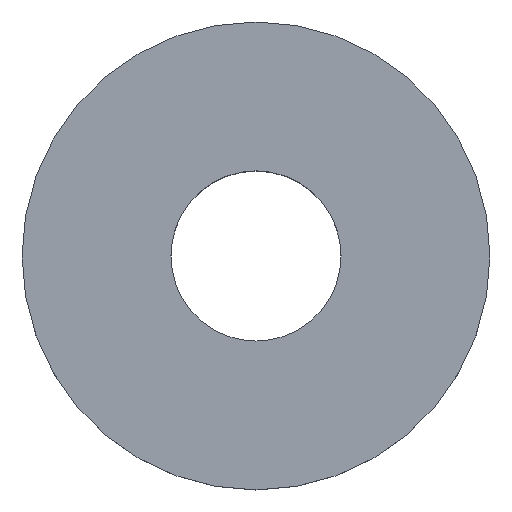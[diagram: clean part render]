
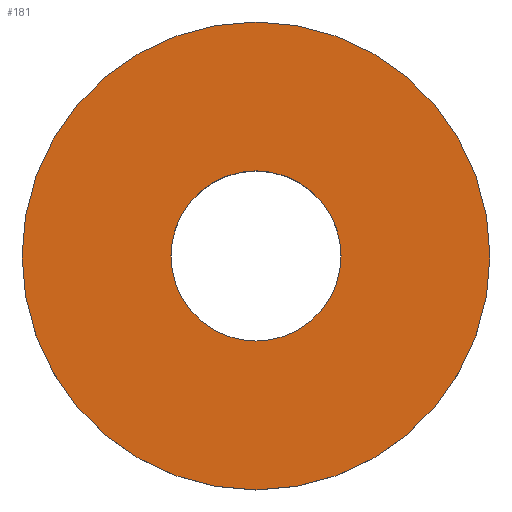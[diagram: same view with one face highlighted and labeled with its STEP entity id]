
A CAD part, top view. The second image highlights one B-rep face of the part: STEP entity #181.
In plain terms, the highlighted planar face has unit normal (0, 0, 1).
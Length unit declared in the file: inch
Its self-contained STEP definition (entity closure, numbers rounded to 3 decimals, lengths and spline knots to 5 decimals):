
#147=CARTESIAN_POINT('',(1.375,0.0,0.));
#148=VERTEX_POINT('',#147);
#149=CARTESIAN_POINT('',(0.0,0.0,0.));
#150=DIRECTION('',(0.0,0.0,1.0));
#151=DIRECTION('',(1.0,0.0,0.0));
#152=AXIS2_PLACEMENT_3D('',#149,#150,#151);
#153=CIRCLE('',#152,1.375);
#154=EDGE_CURVE('',#148,#148,#153,.T.);
#162=CARTESIAN_POINT('',(0.9375,0.0,0.));
#163=DIRECTION('',(0.0,0.0,1.0));
#164=DIRECTION('',(1.0,0.0,0.0));
#165=AXIS2_PLACEMENT_3D('',#162,#163,#164);
#166=PLANE('',#165);
#167=ORIENTED_EDGE('',*,*,#154,.T.);
#168=EDGE_LOOP('',(#167));
#169=FACE_OUTER_BOUND('',#168,.T.);
#170=CARTESIAN_POINT('',(0.5,0.0,0.));
#171=VERTEX_POINT('',#170);
#172=CARTESIAN_POINT('',(0.0,0.0,0.0));
#173=DIRECTION('',(0.0,0.0,1.0));
#174=DIRECTION('',(1.0,0.0,0.0));
#175=AXIS2_PLACEMENT_3D('',#172,#173,#174);
#176=CIRCLE('',#175,0.5);
#177=EDGE_CURVE('',#171,#171,#176,.T.);
#178=ORIENTED_EDGE('',*,*,#177,.F.);
#179=EDGE_LOOP('',(#178));
#180=FACE_BOUND('',#179,.T.);
#181=ADVANCED_FACE('',(#169,#180),#166,.T.);
